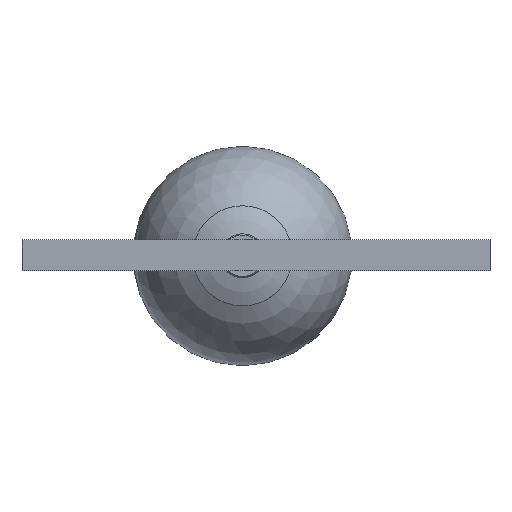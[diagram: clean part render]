
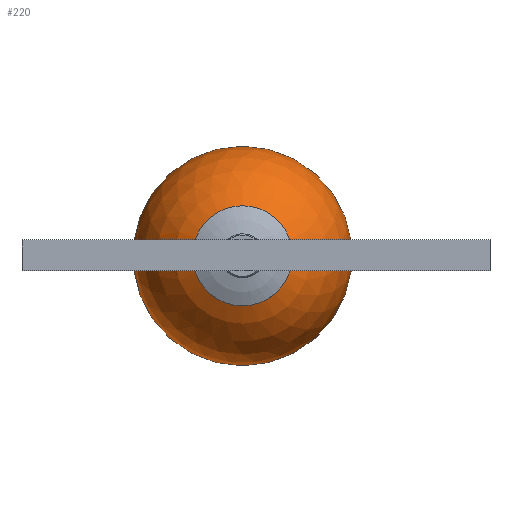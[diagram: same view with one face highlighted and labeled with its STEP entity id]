
A CAD part, top view. The second image highlights one B-rep face of the part: STEP entity #220.
In plain terms, the highlighted spherical face has radius 45 mm.
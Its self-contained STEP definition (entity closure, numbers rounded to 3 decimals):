
#36=SPHERICAL_SURFACE('',#642,45.);
#220=ADVANCED_FACE('',(#238),#36,.T.);
#238=FACE_OUTER_BOUND('',#267,.T.);
#267=EDGE_LOOP('',(#314));
#314=ORIENTED_EDGE('',*,*,#408,.T.);
#361=VERTEX_POINT('',#1068);
#408=EDGE_CURVE('',#361,#361,#590,.T.);
#590=CIRCLE('',#641,19.213);
#641=AXIS2_PLACEMENT_3D('',#1067,#767,#768);
#642=AXIS2_PLACEMENT_3D('',#1069,#769,#770);
#767=DIRECTION('',(0.,0.,-1.));
#768=DIRECTION('',(-1.,0.,0.));
#769=DIRECTION('',(0.,0.,-1.));
#770=DIRECTION('',(-1.,0.,0.));
#1067=CARTESIAN_POINT('',(0.,0.,314.573));
#1068=CARTESIAN_POINT('',(-19.213,0.,314.573));
#1069=CARTESIAN_POINT('',(0.,0.,273.881));
